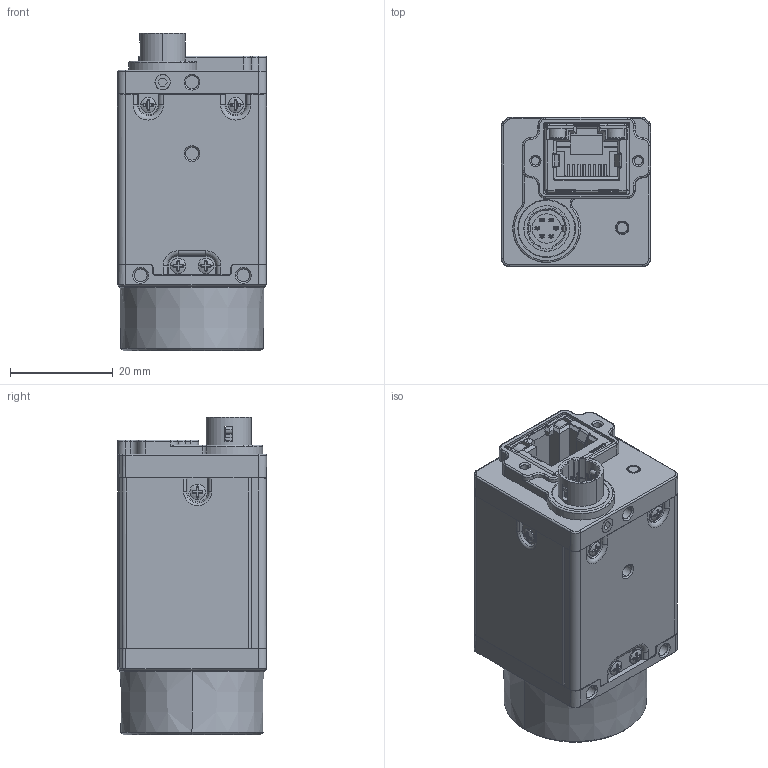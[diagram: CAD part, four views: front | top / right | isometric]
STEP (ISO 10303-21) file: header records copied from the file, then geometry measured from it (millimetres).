
FILE_DESCRIPTION((''),'2;1');
FILE_NAME('MV-CU020-80GMC','2023-11-06T21:13:20',('zhangfeixiang8'),(''),'CREO PARAMETRIC BY PTC INC, 2020044','CREO PARAMETRIC BY PTC INC, 2020044','');
FILE_SCHEMA(('CONFIG_CONTROL_DESIGN'));
Products named in the file (1): MV-CU020-80GMC
Bounding box: 29 x 29 x 61.75 mm (x, y, z)
Volume: 35126 mm3; surface area: 22065.7 mm2
Topology: 2 solids, 16 shells, 2491 faces, 6829 edges, 4361 vertices
Faces by surface type: plane 1212, cylinder 542, bspline 273, cone 240, torus 181, sphere 23, extrusion 20
Entity records: 96769 total; most frequent: CARTESIAN_POINT 35378, ORIENTED_EDGE 13618, DIRECTION 11859, EDGE_CURVE 6809, VERTEX_POINT 4361, AXIS2_PLACEMENT_3D 4044, VECTOR 3771, LINE 3751
